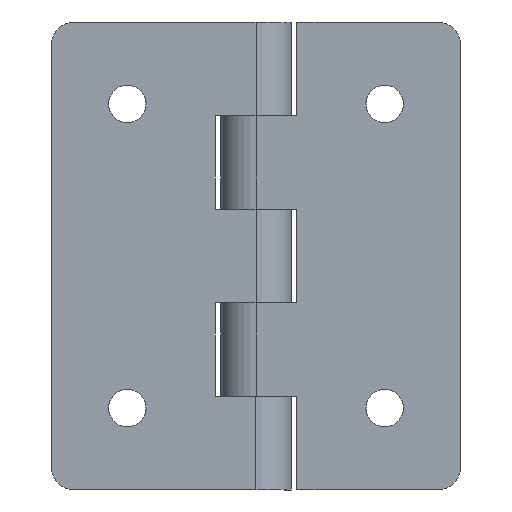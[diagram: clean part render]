
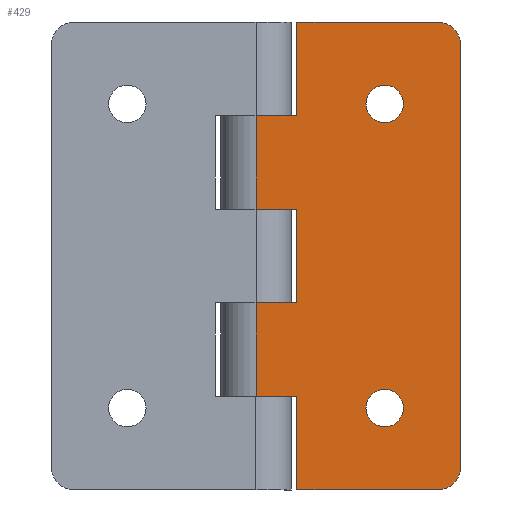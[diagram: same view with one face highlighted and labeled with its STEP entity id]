
A CAD part, front view. The second image highlights one B-rep face of the part: STEP entity #429.
In plain terms, the highlighted planar face has unit normal (0, -1, 0).
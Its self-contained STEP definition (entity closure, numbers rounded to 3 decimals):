
#11 = VERTEX_POINT ( 'NONE', #307 ) ;
#23 = DIRECTION ( 'NONE',  ( 0., 0., -1. ) ) ;
#32 = CARTESIAN_POINT ( 'NONE',  ( 3.5, 0., -20. ) ) ;
#39 = DIRECTION ( 'NONE',  ( 1., 0., 0. ) ) ;
#41 = EDGE_CURVE ( 'NONE', #922, #988, #1890, .T. ) ;
#52 = VERTEX_POINT ( 'NONE', #2552 ) ;
#68 = EDGE_CURVE ( 'NONE', #838, #1325, #653, .T. ) ;
#76 = DIRECTION ( 'NONE',  ( 1., 0., 0. ) ) ;
#88 = DIRECTION ( 'NONE',  ( 1., 0., 0. ) ) ;
#105 = ORIENTED_EDGE ( 'NONE', *, *, #41, .F. ) ;
#108 = VERTEX_POINT ( 'NONE', #2536 ) ;
#134 = LINE ( 'NONE', #724, #1151 ) ;
#171 = AXIS2_PLACEMENT_3D ( 'NONE', #2216, #965, #2418 ) ;
#193 = VECTOR ( 'NONE', #1978, 1000. ) ;
#217 = CIRCLE ( 'NONE', #171, 1.6 ) ;
#253 = ORIENTED_EDGE ( 'NONE', *, *, #480, .F. ) ;
#264 = VECTOR ( 'NONE', #1745, 1000. ) ;
#270 = VERTEX_POINT ( 'NONE', #571 ) ;
#272 = CARTESIAN_POINT ( 'NONE',  ( 12.6, 0., 13. ) ) ;
#278 = ORIENTED_EDGE ( 'NONE', *, *, #1874, .T. ) ;
#284 = CARTESIAN_POINT ( 'NONE',  ( 11., 0., -13. ) ) ;
#294 = CARTESIAN_POINT ( 'NONE',  ( 17.5, 0., -20. ) ) ;
#305 = CARTESIAN_POINT ( 'NONE',  ( 17.5, 0., 20. ) ) ;
#307 = CARTESIAN_POINT ( 'NONE',  ( 0., 0., -12. ) ) ;
#310 = CARTESIAN_POINT ( 'NONE',  ( 3.5, 0., 0. ) ) ;
#333 = DIRECTION ( 'NONE',  ( 1., 0., 0. ) ) ;
#336 = VERTEX_POINT ( 'NONE', #2475 ) ;
#356 = VECTOR ( 'NONE', #681, 1000. ) ;
#429 = ADVANCED_FACE ( 'NONE', ( #1737, #555, #500 ), #458, .T. ) ;
#431 = VECTOR ( 'NONE', #1059, 1000. ) ;
#432 = LINE ( 'NONE', #1078, #910 ) ;
#455 = CARTESIAN_POINT ( 'NONE',  ( 15.5, 0., -18. ) ) ;
#458 = PLANE ( 'NONE',  #2151 ) ;
#480 = EDGE_CURVE ( 'NONE', #336, #570, #432, .T. ) ;
#500 = FACE_BOUND ( 'NONE', #2354, .T. ) ;
#511 = ORIENTED_EDGE ( 'NONE', *, *, #877, .F. ) ;
#518 = AXIS2_PLACEMENT_3D ( 'NONE', #2553, #1320, #88 ) ;
#529 = CARTESIAN_POINT ( 'NONE',  ( 0., 0., 12. ) ) ;
#555 = FACE_BOUND ( 'NONE', #1617, .T. ) ;
#564 = EDGE_CURVE ( 'NONE', #1367, #2534, #786, .T. ) ;
#570 = VERTEX_POINT ( 'NONE', #1528 ) ;
#571 = CARTESIAN_POINT ( 'NONE',  ( 3.5, 0., -12. ) ) ;
#582 = CARTESIAN_POINT ( 'NONE',  ( 15.5, 0., 18. ) ) ;
#597 = AXIS2_PLACEMENT_3D ( 'NONE', #455, #1916, #669 ) ;
#605 = LINE ( 'NONE', #529, #1641 ) ;
#653 = CIRCLE ( 'NONE', #677, 1.6 ) ;
#669 = DIRECTION ( 'NONE',  ( 1., 0., 0. ) ) ;
#671 = DIRECTION ( 'NONE',  ( 0., -1., 0. ) ) ;
#677 = AXIS2_PLACEMENT_3D ( 'NONE', #284, #1511, #76 ) ;
#681 = DIRECTION ( 'NONE',  ( 0., 0., 1. ) ) ;
#684 = DIRECTION ( 'NONE',  ( 0., -1., 0. ) ) ;
#692 = ORIENTED_EDGE ( 'NONE', *, *, #1179, .F. ) ;
#724 = CARTESIAN_POINT ( 'NONE',  ( 3.5, 0., 0. ) ) ;
#773 = VECTOR ( 'NONE', #23, 1000. ) ;
#786 = LINE ( 'NONE', #310, #264 ) ;
#789 = DIRECTION ( 'NONE',  ( 1., 0., 0. ) ) ;
#813 = VECTOR ( 'NONE', #1221, 1000. ) ;
#822 = LINE ( 'NONE', #1933, #356 ) ;
#838 = VERTEX_POINT ( 'NONE', #2138 ) ;
#845 = LINE ( 'NONE', #2489, #773 ) ;
#859 = VERTEX_POINT ( 'NONE', #2334 ) ;
#877 = EDGE_CURVE ( 'NONE', #52, #859, #822, .T. ) ;
#894 = CARTESIAN_POINT ( 'NONE',  ( 0., 0., 12. ) ) ;
#910 = VECTOR ( 'NONE', #1509, 1000. ) ;
#922 = VERTEX_POINT ( 'NONE', #1293 ) ;
#953 = CARTESIAN_POINT ( 'NONE',  ( 15.5, 0., 20. ) ) ;
#960 = EDGE_CURVE ( 'NONE', #1041, #2638, #1606, .T. ) ;
#965 = DIRECTION ( 'NONE',  ( 0., -1., 0. ) ) ;
#985 = ORIENTED_EDGE ( 'NONE', *, *, #1667, .F. ) ;
#988 = VERTEX_POINT ( 'NONE', #32 ) ;
#990 = AXIS2_PLACEMENT_3D ( 'NONE', #582, #2038, #789 ) ;
#1041 = VERTEX_POINT ( 'NONE', #894 ) ;
#1052 = CARTESIAN_POINT ( 'NONE',  ( 0., 0., 20. ) ) ;
#1053 = VECTOR ( 'NONE', #1893, 1000. ) ;
#1059 = DIRECTION ( 'NONE',  ( 1., 0., 0. ) ) ;
#1078 = CARTESIAN_POINT ( 'NONE',  ( 17.5, 0., 20. ) ) ;
#1088 = VERTEX_POINT ( 'NONE', #1748 ) ;
#1105 = EDGE_CURVE ( 'NONE', #1765, #2534, #2446, .T. ) ;
#1106 = VECTOR ( 'NONE', #39, 1000. ) ;
#1151 = VECTOR ( 'NONE', #2375, 1000. ) ;
#1179 = EDGE_CURVE ( 'NONE', #988, #270, #134, .T. ) ;
#1196 = ORIENTED_EDGE ( 'NONE', *, *, #1205, .F. ) ;
#1205 = EDGE_CURVE ( 'NONE', #1041, #1367, #605, .T. ) ;
#1221 = DIRECTION ( 'NONE',  ( -1., 0., 0. ) ) ;
#1293 = CARTESIAN_POINT ( 'NONE',  ( 15.5, 0., -20. ) ) ;
#1320 = DIRECTION ( 'NONE',  ( 0., -1., 0. ) ) ;
#1325 = VERTEX_POINT ( 'NONE', #1383 ) ;
#1333 = AXIS2_PLACEMENT_3D ( 'NONE', #1936, #684, #2135 ) ;
#1367 = VERTEX_POINT ( 'NONE', #1813 ) ;
#1383 = CARTESIAN_POINT ( 'NONE',  ( 12.6, 0., -13. ) ) ;
#1390 = ORIENTED_EDGE ( 'NONE', *, *, #2633, .F. ) ;
#1434 = LINE ( 'NONE', #1829, #813 ) ;
#1473 = CARTESIAN_POINT ( 'NONE',  ( 0., 0., 4. ) ) ;
#1509 = DIRECTION ( 'NONE',  ( 0., 0., -1. ) ) ;
#1511 = DIRECTION ( 'NONE',  ( 0., -1., 0. ) ) ;
#1519 = DIRECTION ( 'NONE',  ( -1., 0., 0. ) ) ;
#1528 = CARTESIAN_POINT ( 'NONE',  ( 17.5, 0., -18. ) ) ;
#1577 = ORIENTED_EDGE ( 'NONE', *, *, #2323, .T. ) ;
#1606 = LINE ( 'NONE', #1052, #1053 ) ;
#1617 = EDGE_LOOP ( 'NONE', ( #2234, #1390 ) ) ;
#1638 = EDGE_CURVE ( 'NONE', #922, #570, #2250, .T. ) ;
#1641 = VECTOR ( 'NONE', #333, 1000. ) ;
#1667 = EDGE_CURVE ( 'NONE', #1325, #838, #2545, .T. ) ;
#1688 = CARTESIAN_POINT ( 'NONE',  ( 0., 0., -4. ) ) ;
#1702 = CARTESIAN_POINT ( 'NONE',  ( 3.5, 0., 20. ) ) ;
#1737 = FACE_OUTER_BOUND ( 'NONE', #2103, .T. ) ;
#1745 = DIRECTION ( 'NONE',  ( 0., 0., 1. ) ) ;
#1748 = CARTESIAN_POINT ( 'NONE',  ( 9.4, 0., 13. ) ) ;
#1765 = VERTEX_POINT ( 'NONE', #953 ) ;
#1780 = ORIENTED_EDGE ( 'NONE', *, *, #2465, .T. ) ;
#1806 = EDGE_CURVE ( 'NONE', #1088, #2574, #217, .T. ) ;
#1813 = CARTESIAN_POINT ( 'NONE',  ( 3.5, 0., 12. ) ) ;
#1829 = CARTESIAN_POINT ( 'NONE',  ( 0., 0., -12. ) ) ;
#1872 = ORIENTED_EDGE ( 'NONE', *, *, #1105, .T. ) ;
#1874 = EDGE_CURVE ( 'NONE', #336, #1765, #1973, .T. ) ;
#1890 = LINE ( 'NONE', #294, #2302 ) ;
#1893 = DIRECTION ( 'NONE',  ( 0., 0., -1. ) ) ;
#1916 = DIRECTION ( 'NONE',  ( 0., -1., 0. ) ) ;
#1921 = CARTESIAN_POINT ( 'NONE',  ( 17.5, 0., 20. ) ) ;
#1933 = CARTESIAN_POINT ( 'NONE',  ( 3.5, 0., 0. ) ) ;
#1936 = CARTESIAN_POINT ( 'NONE',  ( 11., 0., -13. ) ) ;
#1973 = CIRCLE ( 'NONE', #990, 2. ) ;
#1978 = DIRECTION ( 'NONE',  ( -1., 0., 0. ) ) ;
#1991 = ORIENTED_EDGE ( 'NONE', *, *, #2195, .F. ) ;
#2038 = DIRECTION ( 'NONE',  ( 0., -1., 0. ) ) ;
#2103 = EDGE_LOOP ( 'NONE', ( #2618, #1196, #2498, #1577, #511, #2443, #1780, #1991, #692, #105, #2628, #253, #278, #1872 ) ) ;
#2121 = DIRECTION ( 'NONE',  ( 1., 0., 0. ) ) ;
#2135 = DIRECTION ( 'NONE',  ( 1., 0., 0. ) ) ;
#2138 = CARTESIAN_POINT ( 'NONE',  ( 9.4, 0., -13. ) ) ;
#2151 = AXIS2_PLACEMENT_3D ( 'NONE', #1921, #671, #2121 ) ;
#2153 = LINE ( 'NONE', #1473, #1106 ) ;
#2195 = EDGE_CURVE ( 'NONE', #270, #11, #1434, .T. ) ;
#2216 = CARTESIAN_POINT ( 'NONE',  ( 11., 0., 13. ) ) ;
#2229 = ORIENTED_EDGE ( 'NONE', *, *, #68, .F. ) ;
#2234 = ORIENTED_EDGE ( 'NONE', *, *, #1806, .F. ) ;
#2250 = CIRCLE ( 'NONE', #597, 2. ) ;
#2302 = VECTOR ( 'NONE', #1519, 1000. ) ;
#2323 = EDGE_CURVE ( 'NONE', #2638, #859, #2153, .T. ) ;
#2334 = CARTESIAN_POINT ( 'NONE',  ( 3.5, 0., 4. ) ) ;
#2336 = CARTESIAN_POINT ( 'NONE',  ( 0., 0., 4. ) ) ;
#2349 = EDGE_CURVE ( 'NONE', #108, #52, #2627, .T. ) ;
#2354 = EDGE_LOOP ( 'NONE', ( #2229, #985 ) ) ;
#2375 = DIRECTION ( 'NONE',  ( 0., 0., 1. ) ) ;
#2418 = DIRECTION ( 'NONE',  ( 1., 0., 0. ) ) ;
#2443 = ORIENTED_EDGE ( 'NONE', *, *, #2349, .F. ) ;
#2446 = LINE ( 'NONE', #305, #193 ) ;
#2465 = EDGE_CURVE ( 'NONE', #108, #11, #845, .T. ) ;
#2475 = CARTESIAN_POINT ( 'NONE',  ( 17.5, 0., 18. ) ) ;
#2489 = CARTESIAN_POINT ( 'NONE',  ( 0., 0., 20. ) ) ;
#2498 = ORIENTED_EDGE ( 'NONE', *, *, #960, .T. ) ;
#2534 = VERTEX_POINT ( 'NONE', #1702 ) ;
#2536 = CARTESIAN_POINT ( 'NONE',  ( 0., 0., -4. ) ) ;
#2545 = CIRCLE ( 'NONE', #1333, 1.6 ) ;
#2552 = CARTESIAN_POINT ( 'NONE',  ( 3.5, 0., -4. ) ) ;
#2553 = CARTESIAN_POINT ( 'NONE',  ( 11., 0., 13. ) ) ;
#2571 = CIRCLE ( 'NONE', #518, 1.6 ) ;
#2574 = VERTEX_POINT ( 'NONE', #272 ) ;
#2618 = ORIENTED_EDGE ( 'NONE', *, *, #564, .F. ) ;
#2627 = LINE ( 'NONE', #1688, #431 ) ;
#2628 = ORIENTED_EDGE ( 'NONE', *, *, #1638, .T. ) ;
#2633 = EDGE_CURVE ( 'NONE', #2574, #1088, #2571, .T. ) ;
#2638 = VERTEX_POINT ( 'NONE', #2336 ) ;
